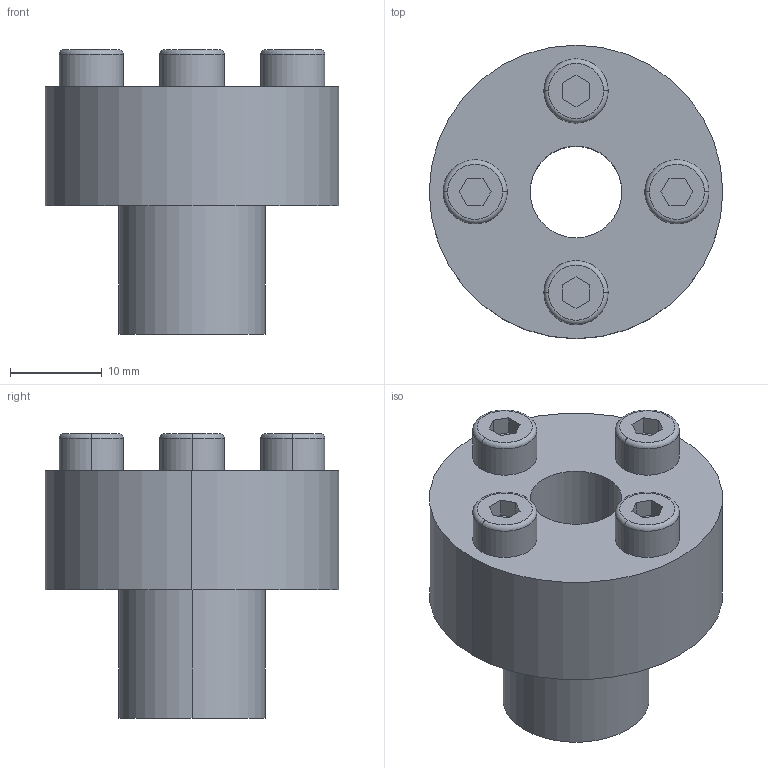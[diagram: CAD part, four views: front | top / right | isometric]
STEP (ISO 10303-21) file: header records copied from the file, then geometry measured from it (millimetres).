
FILE_DESCRIPTION (( 'STEP AP203' ), '1' );
FILE_NAME ('PL-C 10-16.STEP', '2021-10-22T08:24:23', ( '' ), ( '' ), 'SwSTEP 2.0', 'SolidWorks 2018', '' );
FILE_SCHEMA (( 'CONFIG_CONTROL_DESIGN' ));
Length unit declared in the file: millimetre
Products named in the file (1): PL-C 10-16
Bounding box: 32 x 32 x 31 mm (x, y, z)
Volume: 11677.3 mm3; surface area: 4723.3 mm2
Topology: 1 solids, 1 shells, 57 faces, 130 edges, 84 vertices
Faces by surface type: plane 35, cylinder 14, torus 8
Entity records: 1685 total; most frequent: DIRECTION 290, CARTESIAN_POINT 272, ORIENTED_EDGE 260, EDGE_CURVE 130, AXIS2_PLACEMENT_3D 102, VECTOR 86, LINE 86, VERTEX_POINT 84
